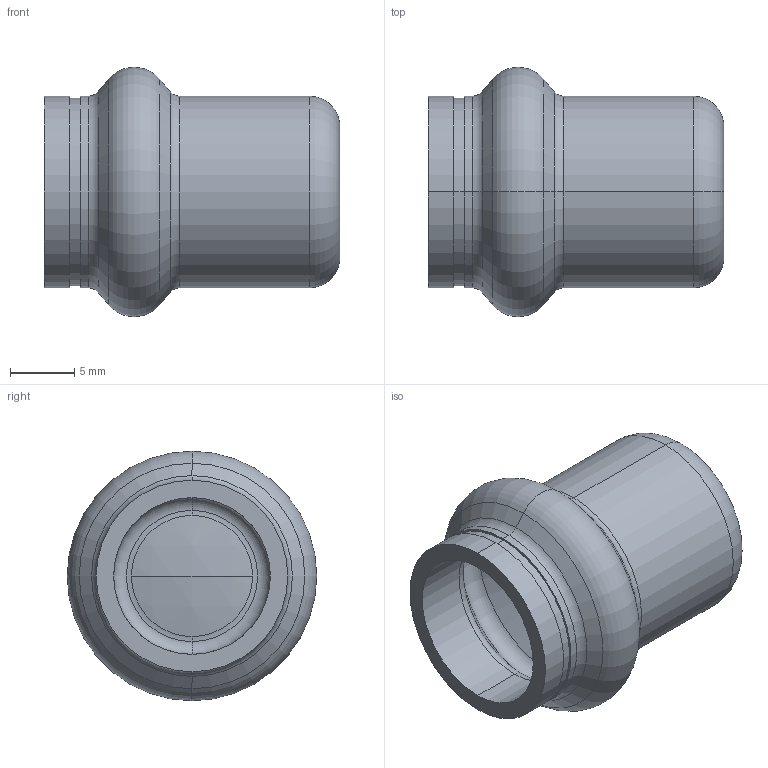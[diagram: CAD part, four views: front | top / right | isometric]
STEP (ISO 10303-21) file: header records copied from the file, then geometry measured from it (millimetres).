
FILE_DESCRIPTION (( 'STEP AP203' ), '1' );
FILE_NAME ('SP5301 12.STEP', '2017-04-24T09:25:08', ( '' ), ( '' ), 'SwSTEP 2.0', 'SolidWorks 2016', '' );
FILE_SCHEMA (( 'CONFIG_CONTROL_DESIGN' ));
Length unit declared in the file: millimetre
Products named in the file (1): SP5301 12
Bounding box: 23 x 19.4 x 19.4 mm (x, y, z)
Volume: 1624.5 mm3; surface area: 2476.9 mm2
Topology: 1 solids, 1 shells, 50 faces, 102 edges, 58 vertices
Faces by surface type: torus 20, cylinder 14, cone 8, sphere 4, plane 4
Entity records: 1403 total; most frequent: DIRECTION 284, CARTESIAN_POINT 211, ORIENTED_EDGE 204, AXIS2_PLACEMENT_3D 131, EDGE_CURVE 102, CIRCLE 80, VERTEX_POINT 58, EDGE_LOOP 54
